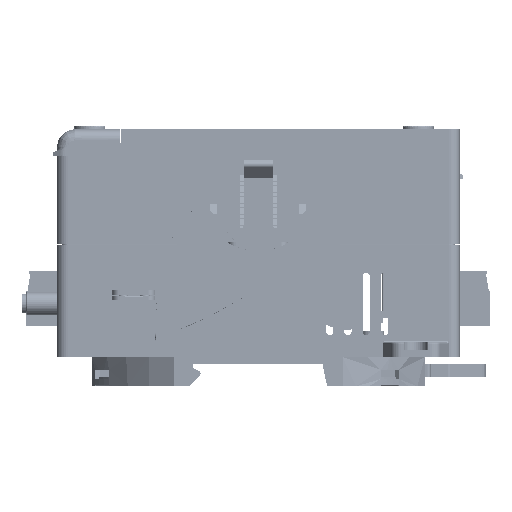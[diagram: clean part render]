
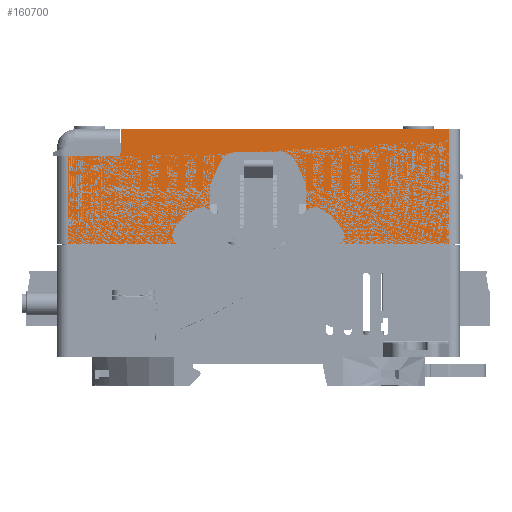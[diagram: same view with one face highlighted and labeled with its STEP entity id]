
A CAD part, left-side view. The second image highlights one B-rep face of the part: STEP entity #160700.
In plain terms, the highlighted planar face has unit normal (-1, 0, 0).
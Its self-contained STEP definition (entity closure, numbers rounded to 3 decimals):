
#6034=FACE_OUTER_BOUND('',#14893,.T.);
#14893=EDGE_LOOP('',(#109107,#109108,#109109,#109110,#109111,#109112));
#26153=LINE('',#230930,#44346);
#26154=LINE('',#230932,#44347);
#26155=LINE('',#230934,#44348);
#26156=LINE('',#230936,#44349);
#26157=LINE('',#230938,#44350);
#26158=LINE('',#230939,#44351);
#44346=VECTOR('',#185984,89.491);
#44347=VECTOR('',#185985,7.201);
#44348=VECTOR('',#185986,14.383);
#44349=VECTOR('',#185987,24.1);
#44350=VECTOR('',#185988,104.);
#44351=VECTOR('',#185989,31.3);
#65848=VERTEX_POINT('',#230928);
#65849=VERTEX_POINT('',#230929);
#65850=VERTEX_POINT('',#230931);
#65851=VERTEX_POINT('',#230933);
#65852=VERTEX_POINT('',#230935);
#65853=VERTEX_POINT('',#230937);
#82437=EDGE_CURVE('',#65848,#65849,#26153,.T.);
#82438=EDGE_CURVE('',#65850,#65848,#26154,.T.);
#82439=EDGE_CURVE('',#65851,#65850,#26155,.T.);
#82440=EDGE_CURVE('',#65851,#65852,#26156,.T.);
#82441=EDGE_CURVE('',#65853,#65852,#26157,.T.);
#82442=EDGE_CURVE('',#65849,#65853,#26158,.T.);
#109107=ORIENTED_EDGE('',*,*,#82437,.F.);
#109108=ORIENTED_EDGE('',*,*,#82438,.F.);
#109109=ORIENTED_EDGE('',*,*,#82439,.F.);
#109110=ORIENTED_EDGE('',*,*,#82440,.T.);
#109111=ORIENTED_EDGE('',*,*,#82441,.F.);
#109112=ORIENTED_EDGE('',*,*,#82442,.F.);
#154231=PLANE('',#170161);
#160700=ADVANCED_FACE('',(#6034),#154231,.T.);
#170161=AXIS2_PLACEMENT_3D('',#230927,#185982,#185983);
#185982=DIRECTION('center_axis',(-1.,0.,0.));
#185983=DIRECTION('ref_axis',(0.,-1.,0.));
#185984=DIRECTION('',(0.,-1.,0.));
#185985=DIRECTION('',(0.,-0.017,1.));
#185986=DIRECTION('',(0.,-1.,0.));
#185987=DIRECTION('',(0.,0.,-1.));
#185988=DIRECTION('',(0.,1.,0.));
#185989=DIRECTION('',(0.,0.,-1.));
#230927=CARTESIAN_POINT('Origin',(-80.,55.,0.));
#230928=CARTESIAN_POINT('',(-80.,37.491,61.7));
#230929=CARTESIAN_POINT('',(-80.,-52.,61.7));
#230930=CARTESIAN_POINT('',(-80.,37.491,61.7));
#230931=CARTESIAN_POINT('',(-80.,37.617,54.5));
#230932=CARTESIAN_POINT('',(-80.,37.617,54.5));
#230933=CARTESIAN_POINT('',(-80.,52.,54.5));
#230934=CARTESIAN_POINT('',(-80.,52.,54.5));
#230935=CARTESIAN_POINT('',(-80.,52.,30.4));
#230936=CARTESIAN_POINT('',(-80.,52.,54.5));
#230937=CARTESIAN_POINT('',(-80.,-52.,30.4));
#230938=CARTESIAN_POINT('',(-80.,-52.,30.4));
#230939=CARTESIAN_POINT('',(-80.,-52.,61.7));
